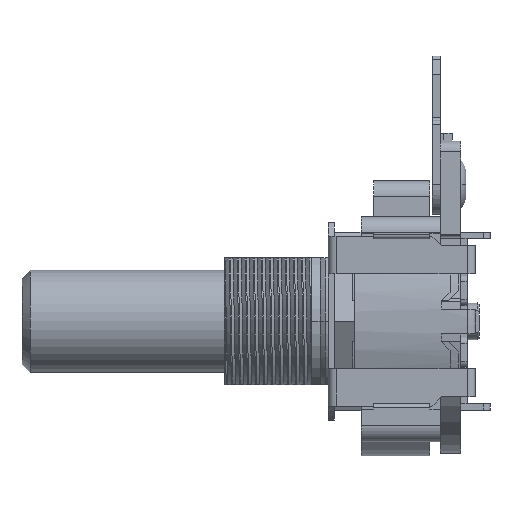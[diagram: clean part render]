
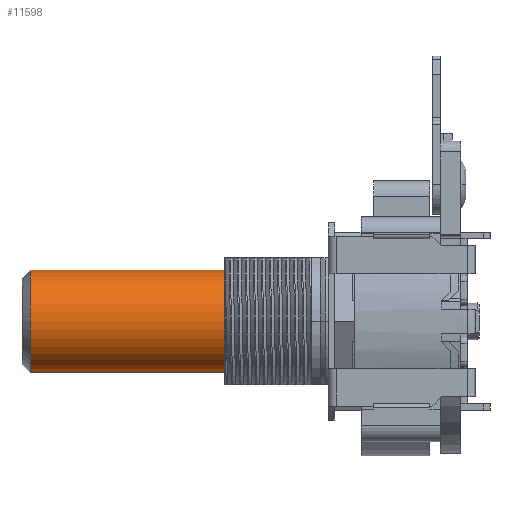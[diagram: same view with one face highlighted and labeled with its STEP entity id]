
A CAD part, left-side view. The second image highlights one B-rep face of the part: STEP entity #11598.
In plain terms, the highlighted cylindrical face has radius 3.175 mm (diameter 6.35 mm), a partial arc.
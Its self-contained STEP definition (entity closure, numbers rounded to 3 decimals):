
#155 = DIRECTION ( 'NONE',  ( 0., -1., 0. ) ) ;
#635 = CYLINDRICAL_SURFACE ( 'NONE', #6524, 3.175 ) ;
#1331 = DIRECTION ( 'NONE',  ( 0., -1., 0. ) ) ;
#3191 = ORIENTED_EDGE ( 'NONE', *, *, #17482, .F. ) ;
#3719 = EDGE_CURVE ( 'NONE', #20682, #19517, #20054, .T. ) ;
#4343 = EDGE_CURVE ( 'NONE', #15730, #19517, #19215, .T. ) ;
#5146 = EDGE_CURVE ( 'NONE', #21369, #20682, #12045, .T. ) ;
#5951 = CARTESIAN_POINT ( 'NONE',  ( 0., 7.874, 0. ) ) ;
#6524 = AXIS2_PLACEMENT_3D ( 'NONE', #21024, #10436, #15810 ) ;
#6651 = LINE ( 'NONE', #16607, #28623 ) ;
#7496 = CARTESIAN_POINT ( 'NONE',  ( 0., 0., -3.175 ) ) ;
#7909 = CARTESIAN_POINT ( 'NONE',  ( 0., 27.94, 3.175 ) ) ;
#10075 = CARTESIAN_POINT ( 'NONE',  ( 0., 27.94, -3.175 ) ) ;
#10436 = DIRECTION ( 'NONE',  ( 0., -1., 0. ) ) ;
#11289 = ORIENTED_EDGE ( 'NONE', *, *, #4343, .F. ) ;
#11598 = ADVANCED_FACE ( 'NONE', ( #23637 ), #635, .T. ) ;
#11965 = ORIENTED_EDGE ( 'NONE', *, *, #3719, .T. ) ;
#12045 = CIRCLE ( 'NONE', #31866, 3.175 ) ;
#12097 = ORIENTED_EDGE ( 'NONE', *, *, #5146, .T. ) ;
#12312 = CARTESIAN_POINT ( 'NONE',  ( 0., 7.874, 3.175 ) ) ;
#13995 = AXIS2_PLACEMENT_3D ( 'NONE', #5951, #30591, #20472 ) ;
#15271 = CARTESIAN_POINT ( 'NONE',  ( 0., 7.874, -3.175 ) ) ;
#15730 = VERTEX_POINT ( 'NONE', #12312 ) ;
#15810 = DIRECTION ( 'NONE',  ( 0., 0., -1. ) ) ;
#16607 = CARTESIAN_POINT ( 'NONE',  ( 0., 0., 3.175 ) ) ;
#17482 = EDGE_CURVE ( 'NONE', #21369, #15730, #6651, .T. ) ;
#19215 = CIRCLE ( 'NONE', #13995, 3.175 ) ;
#19517 = VERTEX_POINT ( 'NONE', #15271 ) ;
#20054 = LINE ( 'NONE', #7496, #26696 ) ;
#20472 = DIRECTION ( 'NONE',  ( 0., 0., -1. ) ) ;
#20682 = VERTEX_POINT ( 'NONE', #10075 ) ;
#21024 = CARTESIAN_POINT ( 'NONE',  ( 0., 0., 0. ) ) ;
#21369 = VERTEX_POINT ( 'NONE', #7909 ) ;
#23637 = FACE_OUTER_BOUND ( 'NONE', #27253, .T. ) ;
#23845 = DIRECTION ( 'NONE',  ( 0., 0., -1. ) ) ;
#26562 = DIRECTION ( 'NONE',  ( 0., -1., 0. ) ) ;
#26696 = VECTOR ( 'NONE', #155, 1000. ) ;
#27253 = EDGE_LOOP ( 'NONE', ( #3191, #12097, #11965, #11289 ) ) ;
#28623 = VECTOR ( 'NONE', #26562, 1000. ) ;
#29070 = CARTESIAN_POINT ( 'NONE',  ( 0., 27.94, 0. ) ) ;
#30591 = DIRECTION ( 'NONE',  ( 0., -1., 0. ) ) ;
#31866 = AXIS2_PLACEMENT_3D ( 'NONE', #29070, #1331, #23845 ) ;
